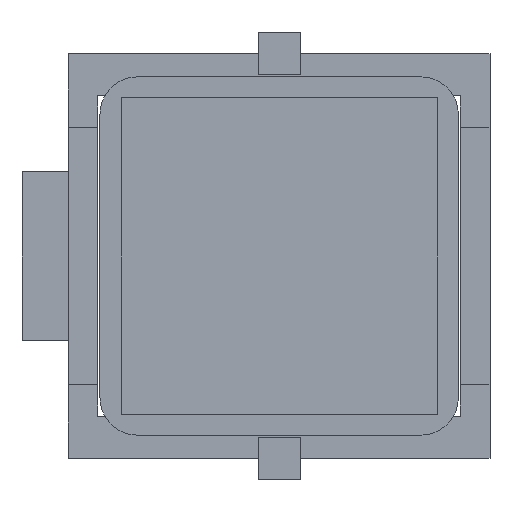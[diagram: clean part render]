
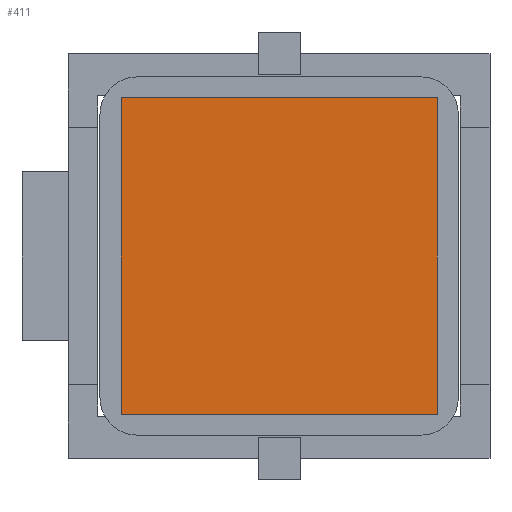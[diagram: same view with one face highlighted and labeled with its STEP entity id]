
A CAD part, front view. The second image highlights one B-rep face of the part: STEP entity #411.
In plain terms, the highlighted planar face has unit normal (0, -1, 0).
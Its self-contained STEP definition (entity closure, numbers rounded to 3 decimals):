
#20 = FACE_OUTER_BOUND ( 'NONE', #2253, .T. ) ;
#333 = ORIENTED_EDGE ( 'NONE', *, *, #3291, .F. ) ;
#411 = ADVANCED_FACE ( 'NONE', ( #20 ), #2417, .F. ) ;
#461 = ORIENTED_EDGE ( 'NONE', *, *, #2171, .F. ) ;
#589 = ORIENTED_EDGE ( 'NONE', *, *, #3398, .F. ) ;
#679 = DIRECTION ( 'NONE',  ( 0., 0., 1. ) ) ;
#687 = DIRECTION ( 'NONE',  ( 0., 0., 1. ) ) ;
#725 = DIRECTION ( 'NONE',  ( -1., 0., 0. ) ) ;
#802 = CARTESIAN_POINT ( 'NONE',  ( -3.413, -13.936, -0.275 ) ) ;
#829 = DIRECTION ( 'NONE',  ( 1., 0., 0. ) ) ;
#925 = DIRECTION ( 'NONE',  ( 0., 0., -1. ) ) ;
#1017 = CARTESIAN_POINT ( 'NONE',  ( -3.413, -13.936, -0.275 ) ) ;
#1348 = VERTEX_POINT ( 'NONE', #4356 ) ;
#1592 = VECTOR ( 'NONE', #725, 1000. ) ;
#1984 = EDGE_CURVE ( 'NONE', #4452, #3094, #2885, .T. ) ;
#1998 = VERTEX_POINT ( 'NONE', #3903 ) ;
#2083 = LINE ( 'NONE', #2447, #3598 ) ;
#2096 = DIRECTION ( 'NONE',  ( 0., 1., 0. ) ) ;
#2171 = EDGE_CURVE ( 'NONE', #3094, #1348, #3837, .T. ) ;
#2253 = EDGE_LOOP ( 'NONE', ( #461, #2268, #333, #589 ) ) ;
#2268 = ORIENTED_EDGE ( 'NONE', *, *, #1984, .F. ) ;
#2417 = PLANE ( 'NONE',  #2688 ) ;
#2447 = CARTESIAN_POINT ( 'NONE',  ( -3.413, -13.936, 14.725 ) ) ;
#2456 = CARTESIAN_POINT ( 'NONE',  ( -3.413, -13.936, 14.725 ) ) ;
#2688 = AXIS2_PLACEMENT_3D ( 'NONE', #2456, #2096, #679 ) ;
#2885 = LINE ( 'NONE', #802, #1592 ) ;
#3008 = LINE ( 'NONE', #4088, #4346 ) ;
#3094 = VERTEX_POINT ( 'NONE', #1017 ) ;
#3189 = CARTESIAN_POINT ( 'NONE',  ( 11.587, -13.936, -0.275 ) ) ;
#3291 = EDGE_CURVE ( 'NONE', #1998, #4452, #3008, .T. ) ;
#3398 = EDGE_CURVE ( 'NONE', #1348, #1998, #2083, .T. ) ;
#3598 = VECTOR ( 'NONE', #829, 1000. ) ;
#3720 = VECTOR ( 'NONE', #687, 1000. ) ;
#3837 = LINE ( 'NONE', #3901, #3720 ) ;
#3901 = CARTESIAN_POINT ( 'NONE',  ( -3.413, -13.936, -0.275 ) ) ;
#3903 = CARTESIAN_POINT ( 'NONE',  ( 11.587, -13.936, 14.725 ) ) ;
#4088 = CARTESIAN_POINT ( 'NONE',  ( 11.587, -13.936, -0.275 ) ) ;
#4346 = VECTOR ( 'NONE', #925, 1000. ) ;
#4356 = CARTESIAN_POINT ( 'NONE',  ( -3.413, -13.936, 14.725 ) ) ;
#4452 = VERTEX_POINT ( 'NONE', #3189 ) ;
